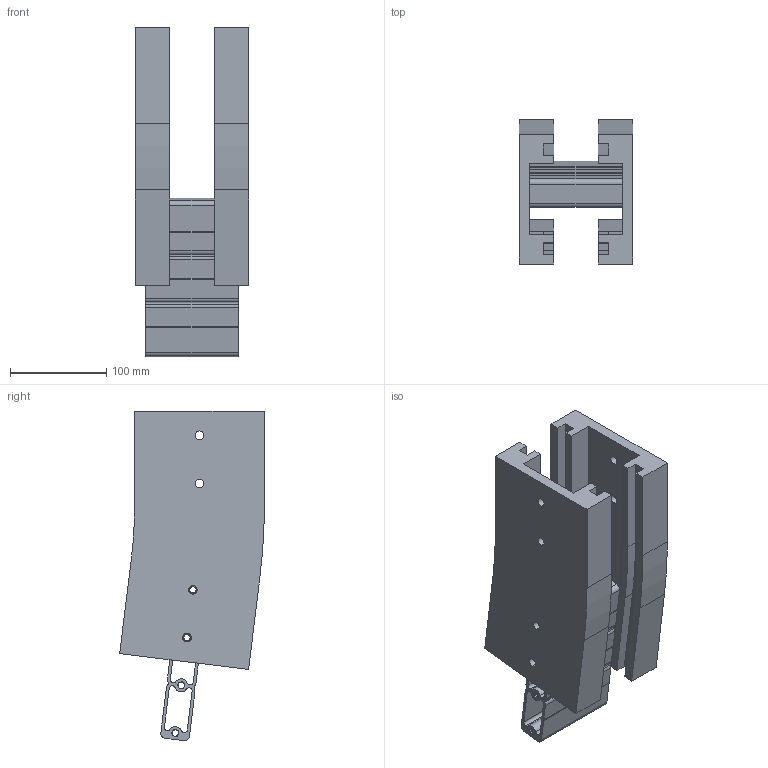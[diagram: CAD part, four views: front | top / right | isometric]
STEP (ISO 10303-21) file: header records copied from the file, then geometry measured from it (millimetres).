
FILE_DESCRIPTION (( 'STEP AP203' ), '1' );
FILE_NAME ('R3CV500-7.STEP', '2009-01-13T08:22:12', ( 'faber' ), ( '' ), 'SwSTEP 2.0', 'SolidWorks 2008', '' );
FILE_SCHEMA (( 'CONFIG_CONTROL_DESIGN' ));
Length unit declared in the file: millimetre
Products named in the file (1): R3CV500-7
Bounding box: 118 x 150.41 x 342.58 mm (x, y, z)
Surface area: 302039.1 mm2 (no closed solid volume)
Topology: 0 solids, 3 shells, 198 faces, 770 edges, 562 vertices
Faces by surface type: plane 109, cylinder 89
Entity records: 8309 total; most frequent: CARTESIAN_POINT 1531, DIRECTION 1442, ORIENTED_EDGE 1330, EDGE_CURVE 770, VERTEX_POINT 562, VECTOR 496, LINE 496, AXIS2_PLACEMENT_3D 473
